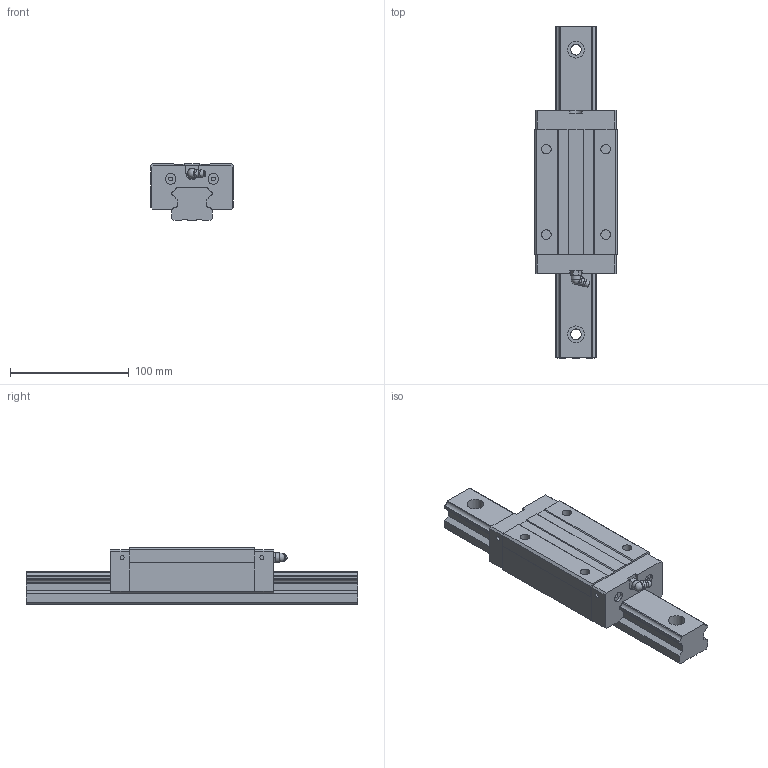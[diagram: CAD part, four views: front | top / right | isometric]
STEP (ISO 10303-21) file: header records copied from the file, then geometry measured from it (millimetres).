
FILE_DESCRIPTION(/* description */ (''),/* implementation_level */ '2;1');
FILE_NAME(/* name */ 'MSB35LS',/* time_stamp */ '2005-12-26T17:53:56+08:00',/* author */ (''),/* organization */ (''),/* preprocessor_version */ 'ST-DEVELOPER v9',/* originating_system */ 'UGS - NX 3.0',/* authorisation */ '');
FILE_SCHEMA (('CONFIG_CONTROL_DESIGN'));
Length unit declared in the file: millimetre
Products named in the file (1): kevi37F33h97
Bounding box: 70 x 280 x 48 mm (x, y, z)
Volume: 505455.4 mm3; surface area: 82714.3 mm2
Topology: 3 solids, 3 shells, 187 faces, 487 edges, 322 vertices
Faces by surface type: plane 129, cylinder 47, torus 7, sphere 2, cone 1, bspline 1
Full cylindrical faces by diameter (mm): 3.3 x8, 8 x5, 9 x8, 14 x4
Entity records: 5725 total; most frequent: CARTESIAN_POINT 1118, DIRECTION 942, ORIENTED_EDGE 894, EDGE_CURVE 447, AXIS2_PLACEMENT_3D 326, VERTEX_POINT 312, LINE 290, VECTOR 290
